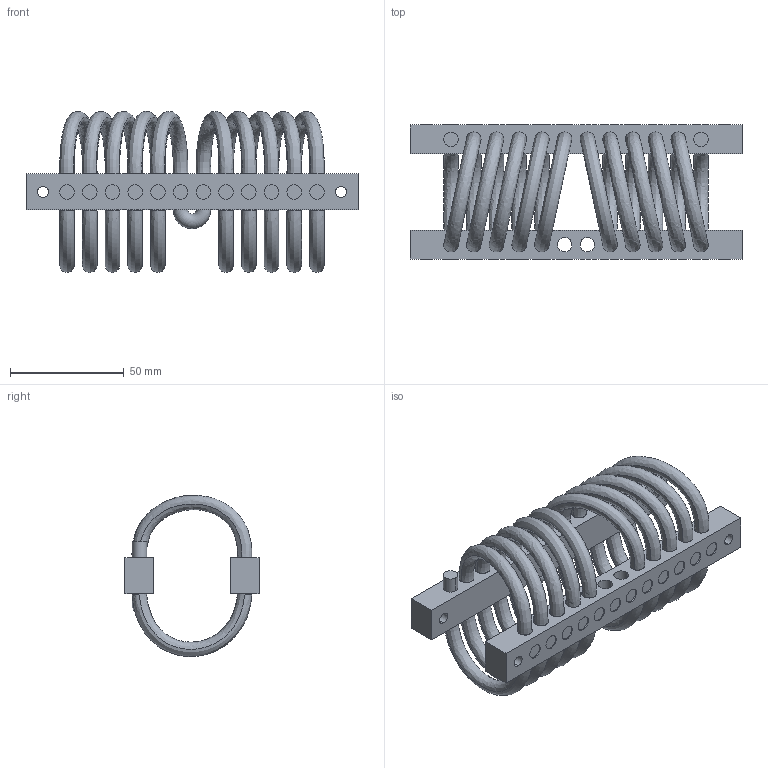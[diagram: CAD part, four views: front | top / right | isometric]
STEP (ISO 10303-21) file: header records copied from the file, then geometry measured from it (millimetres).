
FILE_DESCRIPTION (( 'STEP AP214' ), '1' );
FILE_NAME ('WR8-500-10DM.STEP', '2018-12-07T09:58:10', ( 'user' ), ( 'Microsoft' ), 'SwSTEP 2.0', 'SolidWorks 2016', '' );
FILE_SCHEMA (( 'AUTOMOTIVE_DESIGN' ));
Length unit declared in the file: millimetre
Products named in the file (1): WR8-500-10DM
Bounding box: 146.1 x 59 x 70.95 mm (x, y, z)
Volume: 106320.2 mm3; surface area: 64122.9 mm2
Topology: 25 solids, 25 shells, 316 faces, 702 edges, 460 vertices
Faces by surface type: cylinder 192, plane 82, bspline 40, torus 2
Entity records: 23810 total; most frequent: CARTESIAN_POINT 16539, ORIENTED_EDGE 1404, DIRECTION 1382, EDGE_CURVE 702, AXIS2_PLACEMENT_3D 583, VERTEX_POINT 460, EDGE_LOOP 396, FACE_OUTER_BOUND 316
